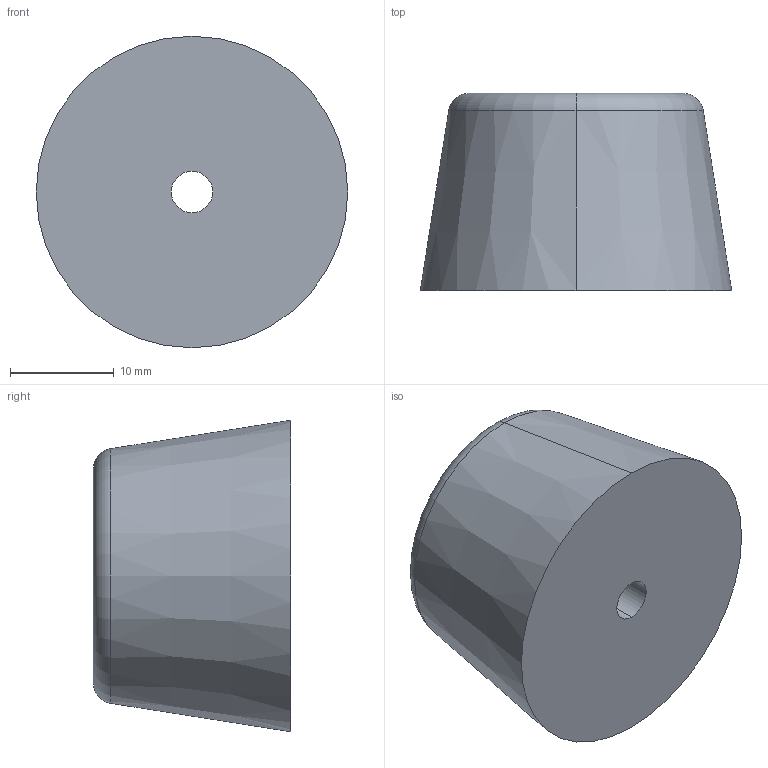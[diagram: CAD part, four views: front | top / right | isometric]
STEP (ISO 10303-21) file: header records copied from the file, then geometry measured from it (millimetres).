
FILE_DESCRIPTION (( 'STEP AP203' ), '1' );
FILE_NAME ('K-30.STEP', '2013-07-15T06:42:40', ( 'SDS' ), ( 'SDS' ), 'SwSTEP 2.0', 'SolidWorks 2002296', '' );
FILE_SCHEMA (( 'CONFIG_CONTROL_DESIGN' ));
Length unit declared in the file: millimetre
Products named in the file (1): K-30
Bounding box: 30 x 19 x 30 mm (x, y, z)
Volume: 9227.6 mm3; surface area: 3272.8 mm2
Topology: 1 solids, 1 shells, 11 faces, 22 edges, 14 vertices
Faces by surface type: cylinder 4, plane 3, cone 2, torus 2
Entity records: 377 total; most frequent: DIRECTION 62, CARTESIAN_POINT 48, ORIENTED_EDGE 44, AXIS2_PLACEMENT_3D 28, EDGE_CURVE 22, CIRCLE 16, EDGE_LOOP 14, VERTEX_POINT 14
